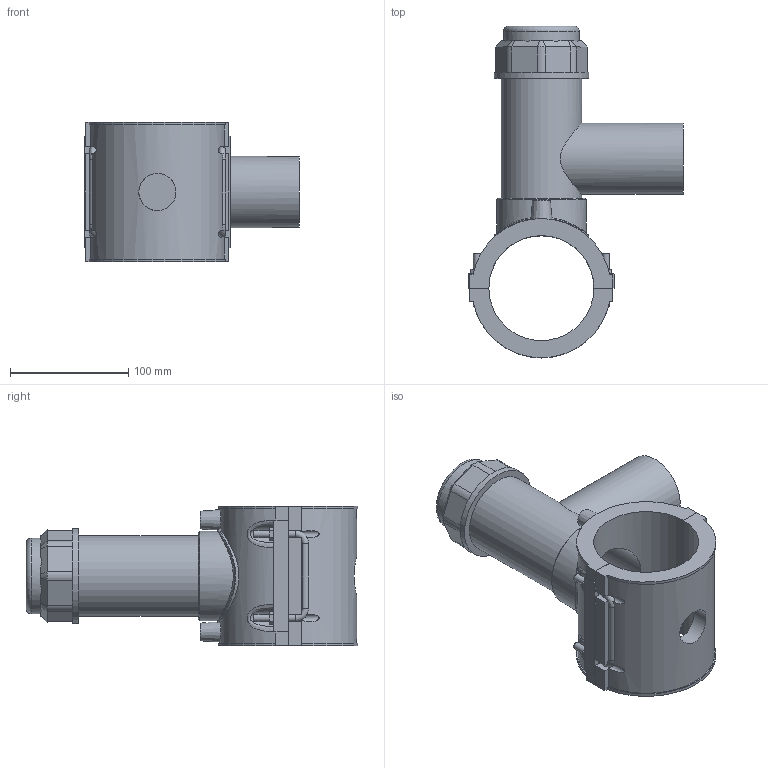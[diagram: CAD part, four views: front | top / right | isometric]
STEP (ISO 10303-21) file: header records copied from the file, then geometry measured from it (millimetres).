
FILE_DESCRIPTION(/* description */ ('PLASSON TAPPING SADDLE 3''''IPS x 2''''IPS'),/* implementation_level */ '2;1');
FILE_NAME(/* name */ 'C:\Dropbox\KIMPROJECTS-Inventor 2019\99-16-3568-Processing Inch\ASTM ElectroFusion 2021\5963B\5963BB03030020.ipt.stp',/* time_stamp */ '2021-08-30T09:55:15+03:00',/* author */ ('KIM'),/* organization */ (''),/* preprocessor_version */ 'ST-DEVELOPER v17.2',/* originating_system */ 'Autodesk Inventor 2019',/* authorisation */ '');
FILE_SCHEMA (('AUTOMOTIVE_DESIGN { 1 0 10303 214 3 1 1 }'));
Length unit declared in the file: millimetre
Products named in the file (1): 5963BB03030020
Bounding box: 181.34 x 280.2 x 118.11 mm (x, y, z)
Volume: 912889.1 mm3; surface area: 193220.3 mm2
Topology: 1 solids, 1 shells, 211 faces, 568 edges, 375 vertices
Faces by surface type: plane 128, cylinder 57, cone 15, bspline 6, torus 5
Full cylindrical faces by diameter (mm): 4 x2, 6 x7, 10 x2, 31.36 x1, 48.08 x1, 55.881 x1, 60.1 x1, 63.864 x1, 67.856 x1, 75.838 x1, 79.83 x1
Entity records: 8517 total; most frequent: CARTESIAN_POINT 3130, ORIENTED_EDGE 1158, DIRECTION 1055, EDGE_CURVE 579, VERTEX_POINT 375, AXIS2_PLACEMENT_3D 357, LINE 341, VECTOR 341
